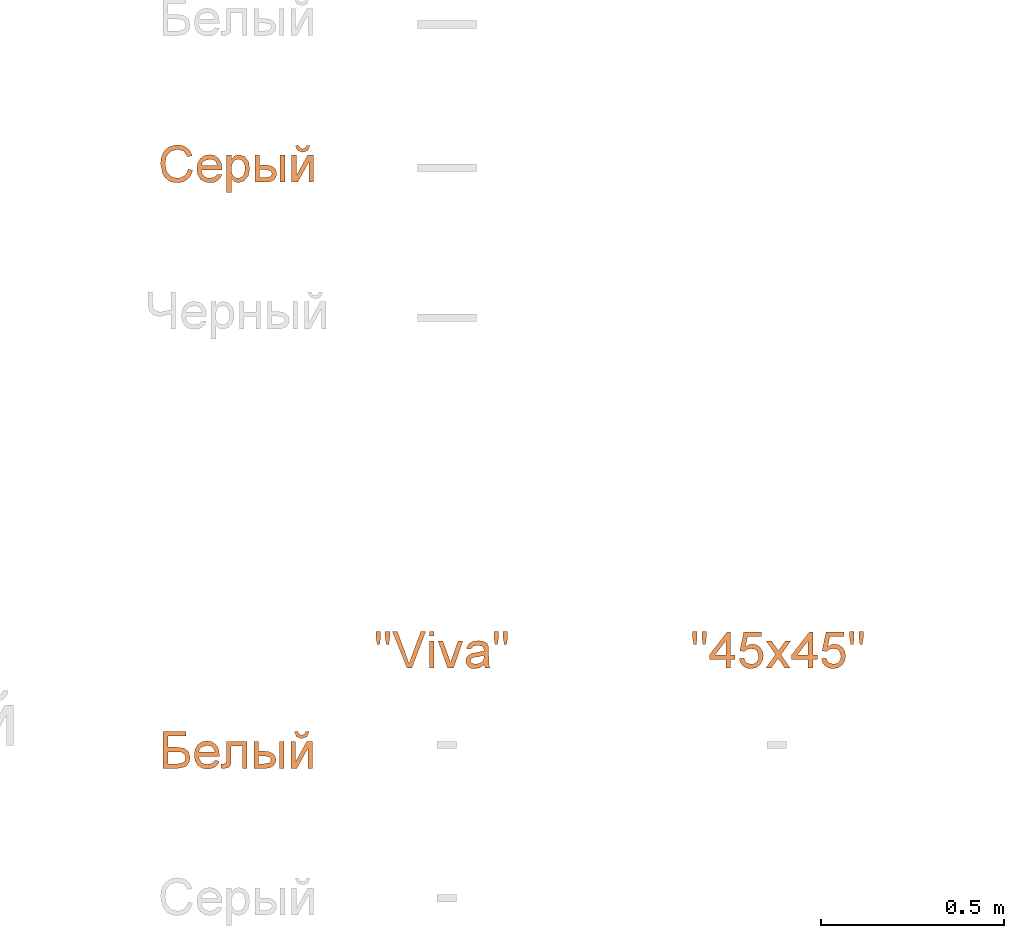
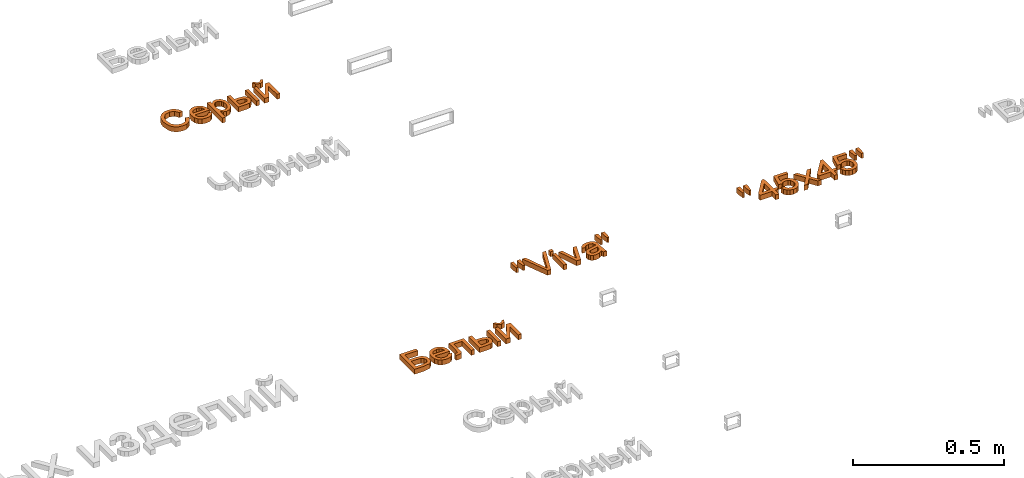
# One storey, part 67 of 87: 4 proxies.
"""IFC2X3 building model written with IfcOpenShell, lengths in millimetres."""

from ifc_helpers import new_model, entity, si_unit, converted_unit, derived_unit, direction, frame, frame_2d, origin, origin_2d_with_axis, place, context, subcontext, project, spatial, polyline, rectangle, outline, extrude, element, save


model = new_model("IFC2X3")

# Units and contexts
model_context = context("Model", 3, precision=0.01, world=origin(), true_north=direction((6.12303176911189e-17, 1.0)))
body_context = subcontext(model_context, "Body", "Model", "MODEL_VIEW")
ifc_project = project(units=[si_unit("LENGTHUNIT", "METRE", prefix="MILLI"), si_unit("AREAUNIT", "SQUARE_METRE"), si_unit("VOLUMEUNIT", "CUBIC_METRE"), converted_unit("PLANEANGLEUNIT", "DEGREE", entity("IfcRatioMeasure", 0.0174532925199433), si_unit("PLANEANGLEUNIT", "RADIAN"), dimensions=[0, 0, 0, 0, 0, 0, 0]), si_unit("MASSUNIT", "GRAM", prefix="KILO"), derived_unit("MASSDENSITYUNIT", [(si_unit("MASSUNIT", "GRAM", prefix="KILO"), 1), (si_unit("LENGTHUNIT", "METRE"), -3)]), si_unit("TIMEUNIT", "SECOND"), si_unit("FREQUENCYUNIT", "HERTZ"), si_unit("THERMODYNAMICTEMPERATUREUNIT", "DEGREE_CELSIUS"), derived_unit("THERMALTRANSMITTANCEUNIT", [(si_unit("MASSUNIT", "GRAM", prefix="KILO"), 1), (si_unit("THERMODYNAMICTEMPERATUREUNIT", "KELVIN"), -1), (si_unit("TIMEUNIT", "SECOND"), -3)]), derived_unit("VOLUMETRICFLOWRATEUNIT", [(si_unit("LENGTHUNIT", "METRE"), 3), (si_unit("TIMEUNIT", "SECOND"), -1)]), si_unit("ELECTRICCURRENTUNIT", "AMPERE"), si_unit("ELECTRICVOLTAGEUNIT", "VOLT"), si_unit("POWERUNIT", "WATT"), si_unit("FORCEUNIT", "NEWTON", prefix="KILO"), si_unit("ILLUMINANCEUNIT", "LUX"), si_unit("LUMINOUSFLUXUNIT", "LUMEN"), si_unit("LUMINOUSINTENSITYUNIT", "CANDELA"), derived_unit("USERDEFINED", [(si_unit("MASSUNIT", "GRAM", prefix="KILO"), -1), (si_unit("LENGTHUNIT", "METRE"), -2), (si_unit("TIMEUNIT", "SECOND"), 3), (si_unit("LUMINOUSFLUXUNIT", "LUMEN"), 1)]), derived_unit("LINEARVELOCITYUNIT", [(si_unit("LENGTHUNIT", "METRE"), 1), (si_unit("TIMEUNIT", "SECOND"), -1)]), si_unit("PRESSUREUNIT", "PASCAL"), derived_unit("USERDEFINED", [(si_unit("LENGTHUNIT", "METRE"), -2), (si_unit("MASSUNIT", "GRAM", prefix="KILO"), 1), (si_unit("TIMEUNIT", "SECOND"), -2)])], contexts=[model_context])

# Site, building, storey
site_placement = place(None, origin())
site = spatial("IfcSite", under=ifc_project, at=site_placement, Name="Default", CompositionType="ELEMENT")
building_placement = place(site_placement, origin())
building = spatial("IfcBuilding", under=site, at=building_placement, Name="Наименование здания", CompositionType="ELEMENT")
storey_placement = place(building_placement, origin())
storey = spatial("IfcBuildingStorey", under=building, at=storey_placement, Name="Этаж 01", CompositionType="ELEMENT", Elevation=0.0)

# Proxies
proxy_1_placement = place(storey_placement, origin())
element("IfcBuildingElementProxy", 1, at=proxy_1_placement, inside=storey, Name="Текст модели:100 мм Arial", ObjectType="Текст модели:100 мм Arial", context=body_context, shape_type="SweptSolid", body=[
    extrude(outline(polyline([(1.51482499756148, -34.4161092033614), (0.106407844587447, -47.3070398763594), (15.8423468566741, -47.0569587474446), (29.0556969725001, -42.3279421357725), (39.393286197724, -33.4650471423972), (46.50194253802, -20.8133308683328), (50.1054677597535, -6.60502583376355), (49.5636952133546, 5.96401189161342), (45.1423030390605, 17.111309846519), (37.1069693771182, 27.0543955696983), (13.8427655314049, 41.4649352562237), (-0.385561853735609, 45.2497080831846), (-13.794742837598, 45.5463194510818), (-25.9267527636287, 42.4308274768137), (-36.3235669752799, 35.9792902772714), (-44.6338782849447, 26.8094665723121), (-50.5063795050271, 15.5391150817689), (-53.5414697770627, 1.96814719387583), (-52.0743247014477, -10.7537866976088), (-46.3177039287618, -22.1661847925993), (-36.4843671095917, -31.8085452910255), (-29.2483218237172, -21.1187569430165), (-40.051519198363, -6.02732816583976), (-38.5860312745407, 11.5610351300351), (-26.6200251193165, 28.0408775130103), (-9.20796903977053, 33.3272162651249), (9.38287380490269, 29.7265712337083), (28.2800845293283, 18.5384764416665), (37.040395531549, 2.61944954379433), (35.1968742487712, -15.206268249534), (30.0363719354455, -24.4614258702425), (22.5795019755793, -30.9812938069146), (13.0108058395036, -34.4161092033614), (1.51482499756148, -34.4161092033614)])), frame((76558.772011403, -3993.04947364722, 0.0), z_axis=(0.0, 0.0, -1.0), x_axis=(-0.35334352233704, -0.935493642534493, 0.0)), (0.0, 0.0, -1.0), 20.0),
    extrude(outline(polyline([(-8.10128238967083, -20.3751729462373), (-15.5352214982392, -30.3140016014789), (-5.78400372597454, -33.5775071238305), (4.12185089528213, -33.3132173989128), (13.8776168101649, -29.4480778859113), (23.1785684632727, -21.90903404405), (31.638042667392, -9.59237957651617), (34.1620486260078, 3.74135328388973), (30.6040508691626, 17.2442201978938), (20.8175139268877, 30.0682768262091), (7.27698270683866, 39.7846728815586), (-6.66179525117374, 43.1117813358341), (-19.9642596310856, 40.422123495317), (-31.5958501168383, 32.0882206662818), (-39.2435519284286, 20.50900488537), (-41.3106827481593, 7.3431979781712), (-37.4373707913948, -6.34962495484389), (-27.2637442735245, -19.5098888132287), (-24.7804584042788, -21.8106804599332), (14.4643272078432, 18.742264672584), (19.7071986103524, 10.6437992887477), (21.1614672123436, 2.21005051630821), (19.1472085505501, -5.9813675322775), (13.9844981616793, -13.3528407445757), (3.53684605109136, -20.3751729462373), (-8.10128238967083, -20.3751729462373)]), holes=[polyline([(5.44081225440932, 27.4746984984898), (-25.1227061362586, -4.1076038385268), (-29.8038819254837, 7.41909510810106), (-27.8851342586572, 15.7498710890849), (-22.5382240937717, 23.391034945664), (-8.40970331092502, 31.2368652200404), (-1.08072680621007, 30.914728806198), (5.44081225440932, 27.4746984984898)])]), frame((76650.0613302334, -4012.01382022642, 0.0), z_axis=(0.0, 0.0, -1.0), x_axis=(-0.695421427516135, -0.718602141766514, 0.0)), (0.0, 0.0, -1.0), 20.0),
    extrude(outline(polyline([(-28.8983569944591, -61.2335493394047), (-16.3413182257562, -61.2335493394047), (-16.3413182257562, -23.1700255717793), (-8.38280439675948, -31.324743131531), (2.54329085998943, -34.5498419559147), (18.4235303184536, -29.7305878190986), (29.9259740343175, -15.8736993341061), (33.8868368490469, 4.4701749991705), (30.3796951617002, 23.82076794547), (19.9808974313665, 37.5059781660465), (4.06386977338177, 42.3620205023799), (-7.65930313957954, 38.8916670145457), (-16.3413182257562, 28.4806065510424), (-16.3413182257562, 40.7923906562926), (-28.8983569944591, 40.7923906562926), (-28.8983569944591, -61.2335493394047)]), holes=[polyline([(-16.3413182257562, 3.3174780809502), (-14.8912500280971, 14.7064915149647), (-10.5410454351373, 23.0236902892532), (-4.30851130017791, 28.1096588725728), (2.78854552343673, 29.8049817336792), (9.85801119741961, 28.2108264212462), (15.8606190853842, 23.428360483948), (19.9625033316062, 15.4453211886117), (21.3297980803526, 4.24944580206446), (19.9287808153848, -7.43080754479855), (15.7257290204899, -15.5916564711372), (9.56063991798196, -20.3925165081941), (2.2735107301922, -21.9928031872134), (-4.89712249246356, -20.4476988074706), (-10.9089274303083, -15.8123856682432), (-14.9832205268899, -7.93971097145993), (-16.3413182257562, 3.3174780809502)])]), frame((76724.4963658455, -4009.35615894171, 0.0)), (0.0, 0.0, 1.0), 20.0),
    extrude(outline(polyline([(-42.3988715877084, -34.5139341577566), (31.3737311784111, -34.5139341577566), (31.3737311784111, -3.73447389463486), (29.6538828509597, 9.31613988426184), (24.4943378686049, 18.2526066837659), (16.9129030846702, 23.4121516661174), (7.92738535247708, 25.1319999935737), (-1.94104916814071, 23.0810578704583), (-9.42438208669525, 16.9282315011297), (-14.1424686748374, 6.9862205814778), (-15.7151642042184, -6.43227519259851), (-15.7151642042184, -21.9568953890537), (-42.3988715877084, -21.9568953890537), (-42.3988715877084, -34.5139341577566)]), holes=[polyline([(18.8166924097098, -21.9568953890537), (-3.15812543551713, -21.9568953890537), (-3.15812543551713, -7.41329384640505), (0.22638892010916, 8.8838785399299), (7.95191081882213, 12.5749612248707), (16.1802047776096, 7.59629155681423), (18.8166924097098, -9.05650009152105), (18.8166924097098, -21.9568953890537)])]), frame((76807.0238054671, -4010.96263987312, 0.0), z_axis=(0.0, 0.0, 1.0), x_axis=(0.0, -1.0, 0.0)), (0.0, 0.0, 1.0), 20.0),
    extrude(outline(polyline([(-11.1429830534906, -6.65049913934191), (-15.3141401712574, -15.0941956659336), (-0.0922190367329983, -15.8161107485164), (10.2631635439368, -5.8454754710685), (12.4162171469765, 9.42172447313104), (2.76087400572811, 21.4951559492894), (-1.41028311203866, 13.0514594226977), (3.36929976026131, 6.75127419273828), (2.31913688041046, -0.662833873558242), (-3.16906596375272, -6.65049913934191), (-11.1429830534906, -6.65049913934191)])), frame((76902.8786664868, -3948.92500110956, 0.0), z_axis=(0.0, 0.0, -1.0), x_axis=(-0.442902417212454, -0.896569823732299, 0.0)), (0.0, 0.0, -1.0), 20.0),
    extrude(outline(polyline([(-36.9206370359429, -29.8425874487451), (36.8519657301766, -29.8425874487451), (36.8519657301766, -13.4105249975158), (-19.0660975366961, 17.2463079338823), (36.8519657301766, 17.2463079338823), (36.8519657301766, 29.8033467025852), (-36.9206370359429, 29.8033467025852), (-36.9206370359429, 13.5674879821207), (19.3407827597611, -17.2855486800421), (-36.9206370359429, -17.2855486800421), (-36.9206370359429, -29.8425874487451)])), frame((76902.8087689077, -4005.48440532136, 0.0), z_axis=(0.0, 0.0, 1.0), x_axis=(0.0, -1.0, 0.0)), (0.0, 0.0, 1.0), 20.0),
    extrude(rectangle(XDim=73.7726027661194, YDim=12.5570387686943, at=frame_2d((-2.70006239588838e-13, 4.33164615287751e-12), x_axis=(1.0, 0.0))), frame((76847.8521039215, -4005.45006966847, 0.0), z_axis=(0.0, 0.0, 1.0), x_axis=(0.0, -1.0, 0.0)), (0.0, 0.0, 1.0), 20.0),
])
proxy_2_placement = place(storey_placement, origin())
element("IfcBuildingElementProxy", 2, at=proxy_2_placement, inside=storey, Name="Текст модели:100 мм Arial", ObjectType="Текст модели:100 мм Arial", context=body_context, shape_type="SweptSolid", body=[
    extrude(outline(polyline([(-50.9950475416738, -42.7620371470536), (49.4612626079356, -42.7620371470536), (49.4612626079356, -4.42873324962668), (45.2428823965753, 17.8649156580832), (34.3658380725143, 27.7118903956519), (20.0552284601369, 31.0105656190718), (3.57411507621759, 26.375252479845), (-6.06439319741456, 14.0389429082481), (-8.61504169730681, -6.68507615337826), (-8.61504169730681, -30.2049983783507), (-38.438008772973, -30.2049983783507), (-38.438008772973, 20.0231566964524), (-50.9950475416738, 20.0231566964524), (-50.9950475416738, -42.7620371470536)]), holes=[polyline([(36.9042238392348, -30.2049983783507), (3.94199707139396, -30.2049983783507), (3.94199707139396, -12.2523570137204), (5.24184678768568, 6.66904027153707), (10.4902965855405, 15.3387926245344), (20.3250085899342, 18.4535268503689), (27.5784152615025, 17.0923634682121), (32.7594200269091, 13.0088733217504), (36.9042238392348, -3.30056179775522), (36.9042238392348, -30.2049983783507)])]), frame((76564.9159480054, -5592.8751084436, 0.0), z_axis=(0.0, 0.0, 1.0), x_axis=(0.0, -1.0, 0.0)), (0.0, 0.0, 1.0), 20.0),
    extrude(outline(polyline([(-8.10128238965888, -20.3751729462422), (-15.5352214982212, -30.3140016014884), (-5.7840037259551, -33.5775071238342), (4.12185089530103, -33.3132173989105), (13.8776168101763, -29.4480778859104), (23.1785684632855, -21.9090340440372), (31.6380426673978, -9.59237957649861), (34.1620486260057, 3.74135328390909), (30.6040508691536, 17.2442201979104), (20.817513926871, 30.0682768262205), (7.27698270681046, 39.7846728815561), (-6.66179525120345, 43.1117813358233), (-19.9642596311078, 40.422123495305), (-31.5958501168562, 32.0882206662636), (-39.2435519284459, 20.5090048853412), (-41.3106827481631, 7.34319797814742), (-37.4373707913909, -6.34962495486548), (-27.263744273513, -19.5098888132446), (-24.7804584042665, -21.8106804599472), (14.4643272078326, 18.7422646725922), (19.7071986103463, 10.6437992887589), (21.1614672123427, 2.21005051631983), (19.1472085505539, -5.98136753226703), (13.9844981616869, -13.3528407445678), (3.53684605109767, -20.3751729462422), (-8.10128238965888, -20.3751729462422)]), holes=[polyline([(5.44081225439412, 27.4746984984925), (-25.1227061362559, -4.10760383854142), (-29.8038819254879, 7.41909510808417), (-27.8851342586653, 15.7498710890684), (-22.5382240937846, 23.3910349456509), (-8.40970331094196, 31.2368652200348), (-1.08072680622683, 30.9147288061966), (5.44081225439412, 27.4746984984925)])]), frame((76642.997995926, -5612.01382022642, 0.0), z_axis=(0.0, 0.0, -1.0), x_axis=(-0.695421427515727, -0.718602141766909, 0.0)), (0.0, 0.0, -1.0), 20.0),
    extrude(outline(polyline([(-49.3689973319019, 12.5447760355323), (-49.3689973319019, -43.9618984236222), (24.3300290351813, -43.9618984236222), (24.3300290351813, -31.4048596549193), (-36.8119585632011, -31.4048596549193), (-36.8119585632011, -0.0122627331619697), (-1.61791435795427, -0.0122627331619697), (14.6179443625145, 0.833865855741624), (21.4728122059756, 5.48144172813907), (24.403605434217, 16.4688506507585), (23.7659433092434, 26.6714446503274), (11.8465666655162, 26.6714446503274), (11.8465666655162, 21.0551128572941), (11.0740144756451, 15.3774673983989), (8.62146784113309, 13.1088617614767), (-2.32915288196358, 12.5447760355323), (-49.3689973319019, 12.5447760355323)])), frame((76707.3579699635, -5617.93276561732, 0.0), z_axis=(0.0, 0.0, -1.0), x_axis=(0.0, -1.0, 0.0)), (0.0, 0.0, -1.0), 20.0),
    extrude(outline(polyline([(-42.3988715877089, -34.5139341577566), (31.37373117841, -34.5139341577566), (31.37373117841, -3.73447389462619), (29.653882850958, 9.3161398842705), (24.4943378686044, 18.2526066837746), (16.9129030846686, 23.4121516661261), (7.92738535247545, 25.1319999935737), (-1.9410491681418, 23.081057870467), (-9.42438208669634, 16.9282315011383), (-14.142468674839, 6.9862205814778), (-15.7151642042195, -6.43227519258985), (-15.7151642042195, -21.9568953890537), (-42.3988715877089, -21.9568953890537), (-42.3988715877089, -34.5139341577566)]), holes=[polyline([(18.8166924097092, -21.9568953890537), (-3.15812543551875, -21.9568953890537), (-3.15812543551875, -7.41329384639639), (0.226388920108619, 8.88387853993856), (7.95191081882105, 12.5749612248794), (16.1802047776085, 7.59629155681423), (18.8166924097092, -9.05650009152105), (18.8166924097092, -21.9568953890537)])]), frame((76804.6693606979, -5610.96263987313, 0.0), z_axis=(0.0, 0.0, 1.0), x_axis=(0.0, -1.0, 0.0)), (0.0, 0.0, 1.0), 20.0),
    extrude(outline(polyline([(-11.1429830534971, -6.65049913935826), (-15.3141401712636, -15.0941956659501), (-0.0922190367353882, -15.8161107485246), (10.2631635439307, -5.84547547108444), (12.4162171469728, 9.42172447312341), (2.76087400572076, 21.4951559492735), (-1.41028311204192, 13.0514594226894), (3.36929976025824, 6.75127419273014), (2.31913688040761, -0.662833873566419), (-3.16906596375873, -6.65049913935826), (-11.1429830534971, -6.65049913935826)])), frame((76900.5242217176, -5548.92500110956, 0.0), z_axis=(0.0, 0.0, -1.0), x_axis=(-0.442902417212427, -0.896569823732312, 0.0)), (0.0, 0.0, -1.0), 20.0),
    extrude(outline(polyline([(-36.9206370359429, -29.8425874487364), (36.851965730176, -29.8425874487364), (36.851965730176, -13.4105249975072), (-19.0660975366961, 17.2463079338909), (36.851965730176, 17.2463079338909), (36.851965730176, 29.8033467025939), (-36.9206370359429, 29.8033467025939), (-36.9206370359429, 13.5674879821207), (19.3407827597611, -17.2855486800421), (-36.9206370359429, -17.2855486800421), (-36.9206370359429, -29.8425874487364)])), frame((76900.4543241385, -5605.48440532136, 0.0), z_axis=(0.0, 0.0, 1.0), x_axis=(0.0, -1.0, 0.0)), (0.0, 0.0, 1.0), 20.0),
    extrude(rectangle(XDim=73.7726027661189, YDim=12.5570387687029, at=origin_2d_with_axis()), frame((76845.4976591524, -5605.45006966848, 0.0), z_axis=(0.0, 0.0, 1.0), x_axis=(0.0, -1.0, 0.0)), (0.0, 0.0, 1.0), 20.0),
])
proxy_3_placement = place(storey_placement, origin())
element("IfcBuildingElementProxy", 3, at=proxy_3_placement, inside=storey, Name="Текст модели:100 мм Arial", ObjectType="Текст модели:100 мм Arial", context=body_context, shape_type="SweptSolid", body=[
    extrude(outline(polyline([(-3.26597460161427, -18.5003767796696), (3.47852864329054, -18.5003767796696), (6.22538087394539, 0.899267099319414), (6.22538087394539, 17.6011096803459), (-6.33165789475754, 17.6011096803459), (-6.33165789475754, 0.899267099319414), (-3.26597460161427, -18.5003767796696)])), frame((77109.4545492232, -5285.83617064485, 0.0)), (0.0, 0.0, 1.0), 20.0),
    extrude(outline(polyline([(-5.82071067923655, -52.1956424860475), (7.15326101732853, -52.1956424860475), (45.4375139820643, 48.2606676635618), (31.9975584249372, 48.2606676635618), (5.16669824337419, -24.1139835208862), (-0.179853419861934, -40.4234186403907), (-5.59998148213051, -24.1139835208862), (-32.357265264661, 48.2606676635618), (-45.7972208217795, 48.2606676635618), (-5.82071067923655, -52.1956424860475)])), frame((77193.5564608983, -5316.49572862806, 0.0)), (0.0, 0.0, 1.0), 20.0),
    extrude(rectangle(XDim=12.5570387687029, YDim=73.7726027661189, at=origin_2d_with_axis()), frame((77255.3769863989, -5331.80506973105, 0.0)), (0.0, 0.0, 1.0), 20.0),
    extrude(outline(polyline([(-7.82362376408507, -40.9030277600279), (8.09340389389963, -40.9030277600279), (33.72251622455, 32.869575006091), (20.4297134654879, 32.869575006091), (4.61078767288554, -12.1591812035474), (-0.0245254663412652, -26.1877479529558), (-4.75794047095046, -11.3253153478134), (-20.4787643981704, 32.869575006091), (-33.7715671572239, 32.869575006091), (-7.82362376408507, -40.9030277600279)])), frame((77306.4144818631, -5327.78834335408, 0.0)), (0.0, 0.0, 1.0), 20.0),
    extrude(outline(polyline([(32.0508237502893, 7.88266535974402), (41.9780345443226, 7.88266535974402), (45.9489188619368, 19.7953183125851), (35.1414436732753, 20.7608946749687), (14.2438893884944, 27.0545912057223), (-0.577126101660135, 31.9949297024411), (-11.1945882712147, 34.8877809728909), (-20.4974705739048, 33.9299602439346), (-28.5323068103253, 27.5470739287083), (-35.4619652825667, 13.815724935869), (-38.3044049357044, -2.69989645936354), (-34.9462156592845, -15.3493345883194), (-25.030638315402, -24.3807697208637), (-19.5706723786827, -12.9644773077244), (-25.786812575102, -4.50695904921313), (-24.061184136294, 8.30922519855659), (-16.227994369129, 20.3304570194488), (-6.33956174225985, 20.6794605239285), (-3.71040200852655, 19.725517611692), (-6.50243004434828, -2.30048133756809), (-8.14662433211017, -13.2049019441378), (-7.01817966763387, -22.8490321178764), (-2.17478658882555, -31.1204151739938), (6.48825595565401, -36.5416029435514), (15.0010331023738, -37.7020395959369), (22.9495879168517, -35.3200906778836), (29.637852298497, -29.3899394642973), (34.3697581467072, -19.9057692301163), (36.2737661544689, -6.36055543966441), (32.0508237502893, 7.88266535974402)]), holes=[polyline([(8.22551784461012, 15.8244339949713), (11.5759514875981, 14.6300664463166), (20.1614376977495, 9.67421668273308), (24.4696920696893, -0.396473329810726), (23.302469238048, -13.3987927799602), (17.2491973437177, -22.9498553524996), (9.62153186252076, -24.3497471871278), (5.58084684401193, -21.1932043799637), (3.98706417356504, -15.504447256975), (5.47226797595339, -4.6116601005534), (8.22551784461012, 15.8244339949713)])]), frame((77380.5997890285, -5331.36022851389, 0.0), z_axis=(0.0, 0.0, 1.0), x_axis=(0.316227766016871, -0.948683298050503, 0.0)), (0.0, 0.0, 1.0), 20.0),
    extrude(outline(polyline([(-3.26597460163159, -18.5003767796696), (3.47852864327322, -18.5003767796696), (6.22538087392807, 0.899267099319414), (6.22538087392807, 17.6011096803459), (-6.33165789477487, 17.6011096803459), (-6.33165789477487, 0.899267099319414), (-3.26597460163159, -18.5003767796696)])), frame((77431.2286676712, -5285.83617064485, 0.0)), (0.0, 0.0, 1.0), 20.0),
    extrude(outline(polyline([(-3.2945876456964, -18.5003767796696), (3.32728826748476, -18.5003767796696), (6.27034422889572, 0.899267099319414), (6.27034422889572, 17.6011096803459), (-6.28669453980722, 17.6011096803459), (-6.28669453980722, 0.899267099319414), (-3.2945876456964, -18.5003767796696)])), frame((77134.5236634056, -5285.83617064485, 0.0)), (0.0, 0.0, 1.0), 20.0),
    extrude(outline(polyline([(-3.2945876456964, -18.5003767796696), (3.32728826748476, -18.5003767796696), (6.27034422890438, 0.899267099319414), (6.27034422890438, 17.6011096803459), (-6.28669453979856, 17.6011096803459), (-6.28669453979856, 0.899267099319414), (-3.2945876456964, -18.5003767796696)])), frame((77456.2977818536, -5285.83617064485, 0.0)), (0.0, 0.0, 1.0), 20.0),
    extrude(rectangle(XDim=12.5570387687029, YDim=12.5570387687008, at=origin_2d_with_axis()), frame((77255.3769863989, -5274.51358034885, 0.0)), (0.0, 0.0, 1.0), 20.0),
])
proxy_4_placement = place(storey_placement, origin())
element("IfcBuildingElementProxy", 4, at=proxy_4_placement, inside=storey, Name="Текст модели:100 мм Arial", ObjectType="Текст модели:100 мм Arial", context=body_context, shape_type="SweptSolid", body=[
    extrude(outline(polyline([(-3.26597460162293, -18.5003767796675), (3.47852864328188, -18.5003767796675), (6.22538087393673, 0.89926709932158), (6.22538087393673, 17.6011096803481), (-6.3316578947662, 17.6011096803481), (-6.3316578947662, 0.89926709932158), (-3.26597460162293, -18.5003767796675)])), frame((77973.5452271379, -5285.83617064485, 0.0)), (0.0, 0.0, 1.0), 20.0),
    extrude(outline(polyline([(-1.14154897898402, -36.3868737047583), (11.4154897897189, -36.3868737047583), (11.4154897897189, -12.8424260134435), (23.9725285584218, -12.8424260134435), (23.9725285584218, -0.285387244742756), (11.4154897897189, -0.285387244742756), (11.4154897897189, 62.4998065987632), (1.99771071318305, 62.4998065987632), (-46.6608145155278, -0.285387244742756), (-46.6608145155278, -12.8424260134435), (-1.14154897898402, -12.8424260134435), (-1.14154897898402, -36.3868737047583)]), holes=[polyline([(-1.14154897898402, -0.285387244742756), (-31.2097707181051, -0.285387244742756), (-1.14154897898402, 38.5139005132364), (-1.14154897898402, -0.285387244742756)])]), frame((78059.3936492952, -5332.30449740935, 0.0)), (0.0, 0.0, 1.0), 20.0),
    extrude(outline(polyline([(3.81439562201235, -37.254895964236), (15.7323946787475, -37.254895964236), (26.1588137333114, -33.0579698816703), (34.2921694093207, -25.0537205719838), (39.3309783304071, -13.6317508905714), (40.2219288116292, 1.43409098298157), (34.3991305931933, 14.6815107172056), (25.5350217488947, 23.148189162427), (13.9054384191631, 28.277097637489), (0.912111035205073, 29.4702838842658), (-10.7159258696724, 25.7768606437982), (-19.7427074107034, 18.0989984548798), (-24.9322687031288, 7.33886785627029), (-25.5937300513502, -2.21124798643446), (-22.6370240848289, -12.2793380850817), (-47.9924930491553, 0.0204883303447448), (-38.0977082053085, 37.2324069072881), (-50.233059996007, 40.4592412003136), (-62.7370428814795, -6.56524698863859), (-15.5021967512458, -30.4943712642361), (-10.7584434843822, -18.7623737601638), (-14.4216298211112, -10.4922324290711), (-13.698161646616, 0.722667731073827), (-9.98738154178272, 9.35727561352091), (-4.32553373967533, 14.687885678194), (11.4370636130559, 15.9400687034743), (19.7481682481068, 12.2772427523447), (25.4355726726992, 6.40632241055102), (28.0665145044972, -1.27212018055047), (27.2082313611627, -10.3575128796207), (19.6530635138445, -21.9256319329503), (5.52431094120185, -24.7161898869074), (3.81439562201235, -37.254895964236)])), frame((78129.3771981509, -5328.74781706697, 0.0), z_axis=(0.0, 0.0, 1.0), x_axis=(0.256974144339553, -0.966418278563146, 0.0)), (0.0, 0.0, 1.0), 20.0),
    extrude(outline(polyline([(-34.5302215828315, -38.4265006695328), (-19.4225343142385, -38.4265006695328), (-0.341721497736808, -12.0616243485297), (2.47870713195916, -16.1328517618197), (17.8561745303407, -38.4265006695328), (32.9638617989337, -38.4265006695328), (7.40832586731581, -1.34399555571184), (33.9448804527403, 35.3461020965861), (18.8371931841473, 35.3461020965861), (4.95577923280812, 16.1671874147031), (0.0261604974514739, 9.3491077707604), (-5.663747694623, 17.6877663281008), (-17.852904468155, 35.3461020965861), (-32.960591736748, 35.3461020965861), (-7.6993614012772, -1.34399555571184), (-34.5302215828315, -38.4265006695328)])), frame((78201.0867812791, -5330.26487044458, 0.0)), (0.0, 0.0, 1.0), 20.0),
    extrude(outline(polyline([(-1.14154897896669, -36.3868737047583), (11.4154897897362, -36.3868737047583), (11.4154897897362, -12.8424260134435), (23.9725285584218, -12.8424260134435), (23.9725285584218, -0.285387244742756), (11.4154897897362, -0.285387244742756), (11.4154897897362, 62.4998065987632), (1.99771071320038, 62.4998065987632), (-46.6608145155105, -0.285387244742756), (-46.6608145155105, -12.8424260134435), (-1.14154897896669, -12.8424260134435), (-1.14154897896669, -36.3868737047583)]), holes=[polyline([(-1.14154897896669, -0.285387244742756), (-31.2097707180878, -0.285387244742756), (-1.14154897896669, 38.5139005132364), (-1.14154897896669, -0.285387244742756)])]), frame((78283.8507172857, -5332.30449740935, 0.0)), (0.0, 0.0, 1.0), 20.0),
    extrude(outline(polyline([(3.8143956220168, -37.2548959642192), (15.732394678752, -37.2548959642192), (26.1588137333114, -33.0579698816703), (34.2921694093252, -25.0537205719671), (39.3309783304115, -13.6317508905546), (40.2219288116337, 1.43409098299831), (34.3991305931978, 14.6815107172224), (25.5350217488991, 23.1481891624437), (13.9054384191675, 28.2770976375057), (0.912111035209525, 29.4702838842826), (-10.715925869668, 25.7768606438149), (-19.742707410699, 18.0989984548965), (-24.9322687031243, 7.33886785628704), (-25.5937300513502, -2.21124798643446), (-22.6370240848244, -12.2793380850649), (-47.9924930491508, 0.0204883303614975), (-38.097708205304, 37.2324069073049), (-50.2330599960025, 40.4592412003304), (-62.737042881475, -6.56524698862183), (-15.5021967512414, -30.4943712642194), (-10.7584434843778, -18.7623737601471), (-14.4216298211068, -10.4922324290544), (-13.6981616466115, 0.722667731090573), (-9.98738154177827, 9.35727561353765), (-4.32553373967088, 14.6878856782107), (11.4370636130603, 15.940068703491), (19.7481682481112, 12.2772427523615), (25.4355726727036, 6.40632241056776), (28.0665145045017, -1.27212018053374), (27.2082313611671, -10.3575128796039), (19.653063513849, -21.9256319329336), (5.5243109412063, -24.7161898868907), (3.8143956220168, -37.2548959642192)])), frame((78353.8342661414, -5328.74781706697, 0.0), z_axis=(0.0, 0.0, 1.0), x_axis=(0.256974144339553, -0.966418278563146, 0.0)), (0.0, 0.0, 1.0), 20.0),
    extrude(outline(polyline([(-3.26597460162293, -18.5003767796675), (3.47852864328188, -18.5003767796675), (6.22538087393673, 0.89926709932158), (6.22538087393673, 17.6011096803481), (-6.3316578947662, 17.6011096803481), (-6.3316578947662, 0.89926709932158), (-3.26597460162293, -18.5003767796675)])), frame((78402.0541751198, -5285.83617064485, 0.0)), (0.0, 0.0, 1.0), 20.0),
    extrude(outline(polyline([(-3.29458764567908, -18.5003767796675), (3.32728826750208, -18.5003767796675), (6.27034422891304, 0.89926709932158), (6.27034422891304, 17.6011096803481), (-6.28669453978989, 17.6011096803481), (-6.28669453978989, 0.89926709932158), (-3.29458764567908, -18.5003767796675)])), frame((77998.6143413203, -5285.83617064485, 0.0)), (0.0, 0.0, 1.0), 20.0),
    extrude(outline(polyline([(-3.29458764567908, -18.5003767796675), (3.32728826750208, -18.5003767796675), (6.27034422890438, 0.89926709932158), (6.27034422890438, 17.6011096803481), (-6.28669453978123, 17.6011096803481), (-6.28669453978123, 0.89926709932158), (-3.29458764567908, -18.5003767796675)])), frame((78427.1232893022, -5285.83617064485, 0.0)), (0.0, 0.0, 1.0), 20.0),
])

save(model, "model.ifc")
